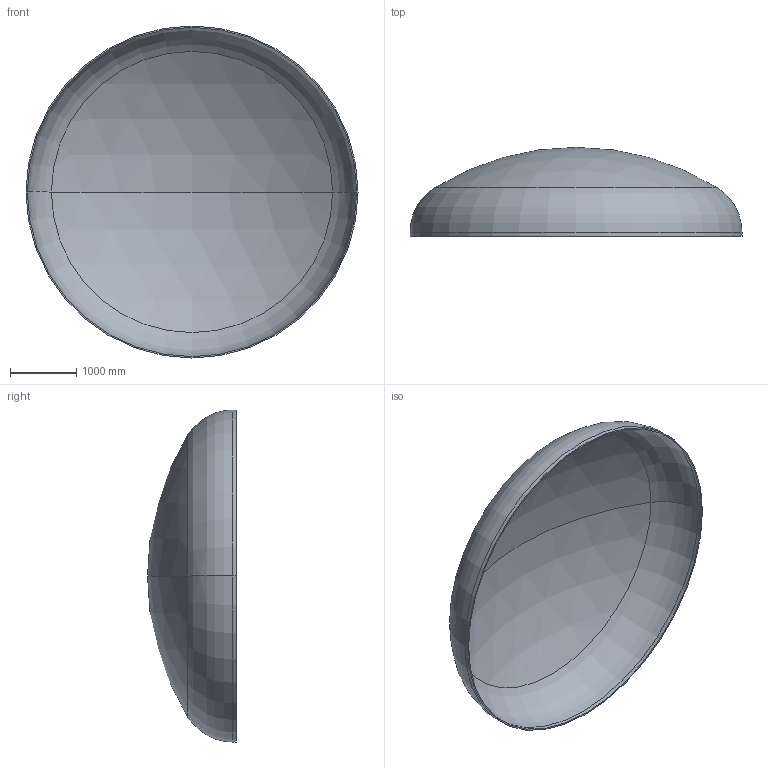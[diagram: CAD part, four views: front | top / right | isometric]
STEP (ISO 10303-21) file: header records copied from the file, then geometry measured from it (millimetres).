
FILE_DESCRIPTION (( 'STEP AP203' ), '1' );
FILE_NAME ('DIN 28013 Korbbogenform_-_Boden DIN 28013 - 5000 x 60 - I - s=20.step', '2016-07-02T00:11:40', ( '' ), ( '' ), 'SwSTEP 2.0', 'SolidWorks 2013', '' );
FILE_SCHEMA (( 'CONFIG_CONTROL_DESIGN' ));
Length unit declared in the file: millimetre
Products named in the file (1): DIN 28013 Korbbogenform_-_Boden DIN 28013 - 5000 x 60 - I - s=20
Bounding box: 5000 x 1339.78 x 5000 mm (x, y, z)
Volume: 559815957.2 mm3; surface area: 56295313.6 mm2
Topology: 1 solids, 1 shells, 13 faces, 24 edges, 14 vertices
Faces by surface type: torus 4, cylinder 4, sphere 4, plane 1
Entity records: 407 total; most frequent: DIRECTION 72, CARTESIAN_POINT 52, ORIENTED_EDGE 48, AXIS2_PLACEMENT_3D 34, EDGE_CURVE 24, CIRCLE 20, EDGE_LOOP 14, VERTEX_POINT 14
